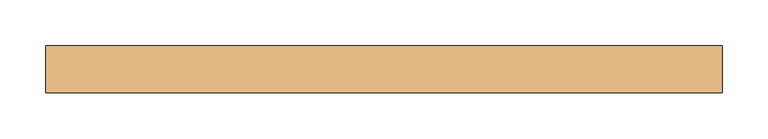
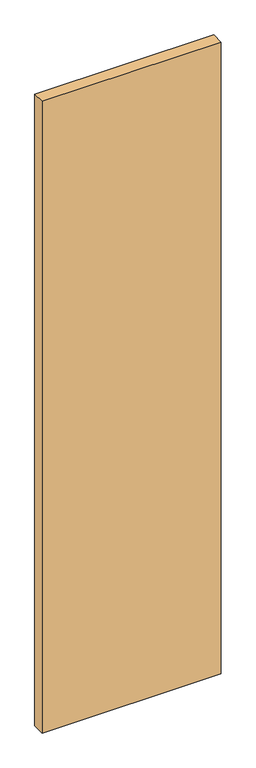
"""IFC4 building model written with IfcOpenShell, lengths in millimetres: door geometry, Planitar - Swap_Flush Panel : Planitar - Swap_Flush Panel."""

from ifc_helpers import new_model, si_unit, origin, origin_with_axes, place, context, project, spatial, polyline, outline, extrude, source, transform, mapped, element, save


def door_9242a0c5(model_context):
    return source(origin(), model_context, "Body", "SweptSolid", [
        extrude(outline(polyline([(368.3, 25.4), (368.3, -25.4), (-368.3, -25.4), (-368.3, 25.4), (368.3, 25.4)])), origin_with_axes(), (0.0, 0.0, 1.0), 2743.2),
    ])


if __name__ == "__main__":
    model = new_model("IFC4")
    model_context = context("Model", 3, world=origin())
    ifc_project = project(units=[si_unit("LENGTHUNIT", "METRE", prefix="MILLI")], contexts=[model_context])
    site = spatial("IfcSite", under=ifc_project)
    building = spatial("IfcBuilding", under=site)
    placement = place(None, origin())
    door_shape = door_9242a0c5(model_context)
    element("IfcDoor", 1, ObjectType="Planitar - Swap_Flush Panel : Planitar - Swap_Flush Panel", at=placement, inside=building, context=model_context, shape_type="MappedRepresentation", body=[
        mapped(door_shape, transform((0.0, 0.0, 0.0), x_axis=(1.0, 0.0, 0.0), y_axis=(0.0, 1.0, 0.0), z_axis=(0.0, 0.0, 1.0))),
    ])
    save(model, "model.ifc")
